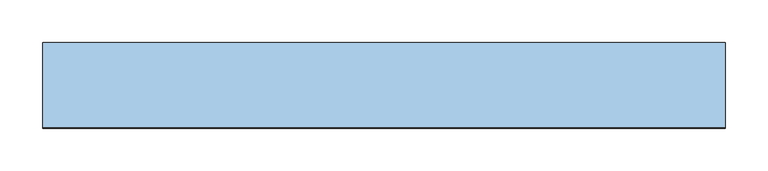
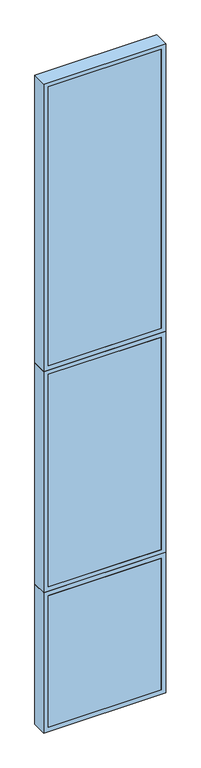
"""IFC4 building model written with IfcOpenShell, lengths in millimetres: window geometry, TRP_CP_ARC_FI_V1 : AL_P02_80."""

from ifc_helpers import new_model, si_unit, frame, origin, place, context, project, spatial, polyline, outline, extrude, source, transform, mapped, element, save


def window_7186550b(model_context):
    return source(origin(), model_context, "Body", "SweptSolid", [
        extrude(outline(polyline([(370.0, -50.0), (-370.0, -50.0), (-370.0, -30.0), (370.0, -30.0), (370.0, -50.0)])), frame((0.0, 0.0, 30.0), z_axis=(0.0, 0.0, 1.0), x_axis=(1.0, 0.0, 0.0)), (0.0, 0.0, 1.0), 913.0),
        extrude(outline(polyline([(973.0, 400.0), (973.0, -400.0), (0.0, -400.0), (0.0, 400.0), (973.0, 400.0)]), holes=[polyline([(30.0, 370.0), (30.0, -370.0), (943.0, -370.0), (943.0, 370.0), (30.0, 370.0)])]), frame((0.0, -50.0, 0.0), z_axis=(0.0, 1.0, 0.0), x_axis=(0.0, 0.0, 1.0)), (0.0, 0.0, 1.0), 100.0),
        extrude(outline(polyline([(2506.0, 400.0), (2506.0, -400.0), (973.0, -400.0), (973.0, 400.0), (2506.0, 400.0)]), holes=[polyline([(1003.0, 370.0), (1003.0, -370.0), (2476.0, -370.0), (2476.0, 370.0), (1003.0, 370.0)])]), frame((0.0, -50.0, 0.0), z_axis=(0.0, 1.0, 0.0), x_axis=(0.0, 0.0, 1.0)), (0.0, 0.0, 1.0), 100.0),
        extrude(outline(polyline([(370.0, -50.0), (-370.0, -50.0), (-370.0, -30.0), (370.0, -30.0), (370.0, -50.0)])), frame((0.0, 0.0, 1003.0), z_axis=(0.0, 0.0, 1.0), x_axis=(1.0, 0.0, 0.0)), (0.0, 0.0, 1.0), 1473.0),
        extrude(outline(polyline([(4500.0, 400.0), (4500.0, -400.0), (2506.0, -400.0), (2506.0, 400.0), (4500.0, 400.0)]), holes=[polyline([(2536.0, 370.0), (2536.0, -370.0), (4470.0, -370.0), (4470.0, 370.0), (2536.0, 370.0)])]), frame((0.0, -50.0, 0.0), z_axis=(0.0, 1.0, 0.0), x_axis=(0.0, 0.0, 1.0)), (0.0, 0.0, 1.0), 100.0),
        extrude(outline(polyline([(370.0, -50.0), (-370.0, -50.0), (-370.0, -30.0), (370.0, -30.0), (370.0, -50.0)])), frame((0.0, 0.0, 2536.0), z_axis=(0.0, 0.0, 1.0), x_axis=(1.0, 0.0, 0.0)), (0.0, 0.0, 1.0), 1934.0),
    ])


if __name__ == "__main__":
    model = new_model("IFC4")
    model_context = context("Model", 3, world=origin())
    ifc_project = project(units=[si_unit("LENGTHUNIT", "METRE", prefix="MILLI")], contexts=[model_context])
    site = spatial("IfcSite", under=ifc_project)
    building = spatial("IfcBuilding", under=site)
    placement = place(None, origin())
    window_shape = window_7186550b(model_context)
    element("IfcWindow", 1, ObjectType="TRP_CP_ARC_FI_V1 : AL_P02_80", at=placement, inside=building, context=model_context, shape_type="MappedRepresentation", body=[
        mapped(window_shape, transform((0.0, 0.0, 0.0), x_axis=(1.0, 0.0, 0.0), y_axis=(0.0, 1.0, 0.0), z_axis=(0.0, 0.0, 1.0))),
    ])
    save(model, "model.ifc")
